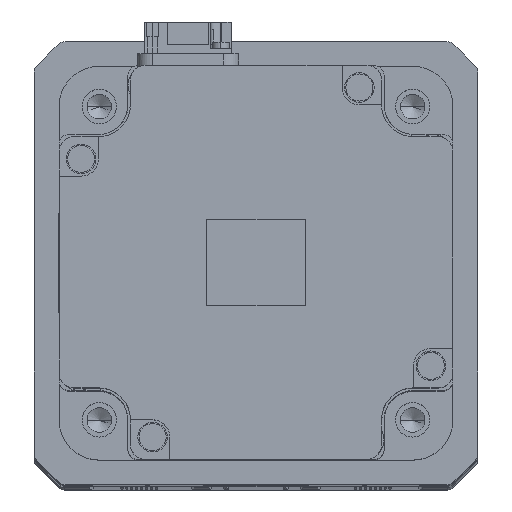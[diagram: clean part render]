
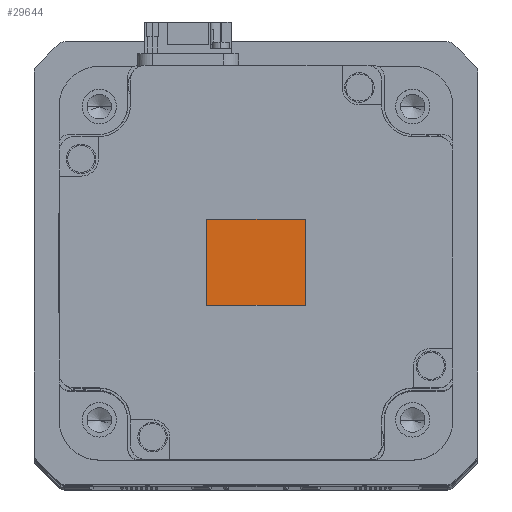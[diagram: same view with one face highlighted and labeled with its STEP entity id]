
A CAD part, top view. The second image highlights one B-rep face of the part: STEP entity #29644.
In plain terms, the highlighted planar face has unit normal (0, 0, 1) as drawn and (0, 0, -1) by its records, which use the part's own axes.
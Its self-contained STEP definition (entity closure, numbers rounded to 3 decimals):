
#68 = VECTOR ( 'NONE', #30996, 1000. ) ;
#1403 = VERTEX_POINT ( 'NONE', #38288 ) ;
#2597 = VECTOR ( 'NONE', #16444, 1000. ) ;
#3037 = EDGE_LOOP ( 'NONE', ( #13826, #10741, #3630, #44079 ) ) ;
#3630 = ORIENTED_EDGE ( 'NONE', *, *, #43446, .T. ) ;
#5370 = CARTESIAN_POINT ( 'NONE',  ( 10., 8.75, -115.1 ) ) ;
#8399 = DIRECTION ( 'NONE',  ( -1., 0., 0. ) ) ;
#8511 = CARTESIAN_POINT ( 'NONE',  ( 10., 8.75, -115.1 ) ) ;
#9394 = LINE ( 'NONE', #41352, #68 ) ;
#10741 = ORIENTED_EDGE ( 'NONE', *, *, #35768, .T. ) ;
#12483 = CARTESIAN_POINT ( 'NONE',  ( -10., 8.75, -115.1 ) ) ;
#12981 = LINE ( 'NONE', #8511, #31501 ) ;
#13826 = ORIENTED_EDGE ( 'NONE', *, *, #23476, .T. ) ;
#14073 = CARTESIAN_POINT ( 'NONE',  ( 10., 8.75, -115.1 ) ) ;
#16444 = DIRECTION ( 'NONE',  ( 0., 1., 0. ) ) ;
#18767 = CARTESIAN_POINT ( 'NONE',  ( 10., -8.75, -115.1 ) ) ;
#20503 = LINE ( 'NONE', #37157, #2597 ) ;
#23476 = EDGE_CURVE ( 'NONE', #1403, #42826, #20503, .T. ) ;
#26806 = FACE_OUTER_BOUND ( 'NONE', #3037, .T. ) ;
#29177 = PLANE ( 'NONE',  #32431 ) ;
#29324 = DIRECTION ( 'NONE',  ( 0., 0., -1. ) ) ;
#29518 = CARTESIAN_POINT ( 'NONE',  ( 10., -8.75, -115.1 ) ) ;
#29644 = ADVANCED_FACE ( 'NONE', ( #26806 ), #29177, .T. ) ;
#30996 = DIRECTION ( 'NONE',  ( -1., 0., 0. ) ) ;
#31501 = VECTOR ( 'NONE', #36273, 1000. ) ;
#32431 = AXIS2_PLACEMENT_3D ( 'NONE', #18767, #29324, #8399 ) ;
#35768 = EDGE_CURVE ( 'NONE', #42826, #41979, #12981, .T. ) ;
#36273 = DIRECTION ( 'NONE',  ( 1., 0., 0. ) ) ;
#37157 = CARTESIAN_POINT ( 'NONE',  ( -10., 8.75, -115.1 ) ) ;
#37782 = LINE ( 'NONE', #5370, #44872 ) ;
#38288 = CARTESIAN_POINT ( 'NONE',  ( -10., -8.75, -115.1 ) ) ;
#40426 = VERTEX_POINT ( 'NONE', #29518 ) ;
#41352 = CARTESIAN_POINT ( 'NONE',  ( 10., -8.75, -115.1 ) ) ;
#41979 = VERTEX_POINT ( 'NONE', #14073 ) ;
#42826 = VERTEX_POINT ( 'NONE', #12483 ) ;
#43446 = EDGE_CURVE ( 'NONE', #41979, #40426, #37782, .T. ) ;
#43603 = EDGE_CURVE ( 'NONE', #40426, #1403, #9394, .T. ) ;
#43807 = DIRECTION ( 'NONE',  ( 0., -1., 0. ) ) ;
#44079 = ORIENTED_EDGE ( 'NONE', *, *, #43603, .T. ) ;
#44872 = VECTOR ( 'NONE', #43807, 1000. ) ;
